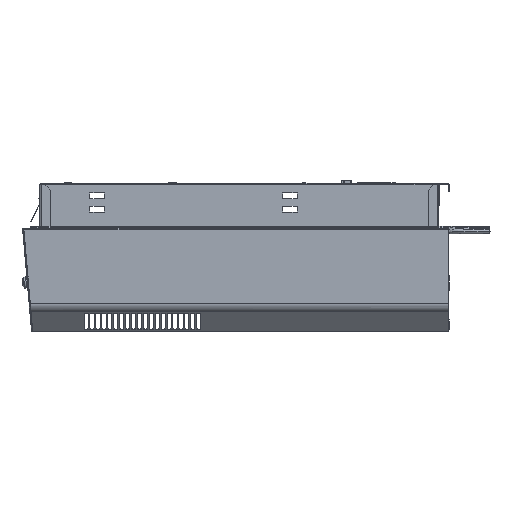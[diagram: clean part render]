
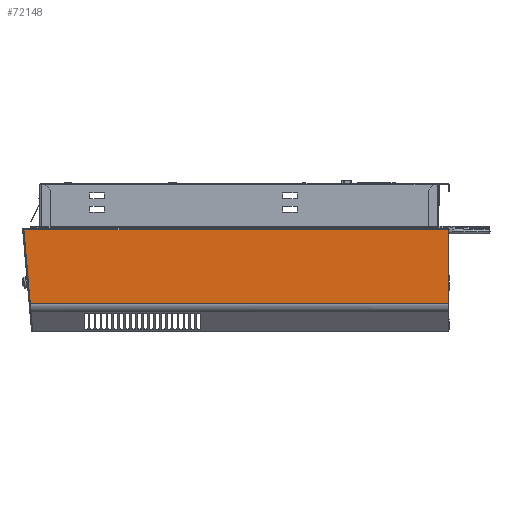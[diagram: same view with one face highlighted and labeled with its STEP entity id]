
A CAD part, left-side view. The second image highlights one B-rep face of the part: STEP entity #72148.
In plain terms, the highlighted planar face has unit normal (-1, 0, 0).
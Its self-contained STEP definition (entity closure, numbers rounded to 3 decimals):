
#1767 = CARTESIAN_POINT ( 'NONE',  ( -190., 1294.078, -171.919 ) ) ;
#1768 = DIRECTION ( 'NONE',  ( 0., -1., 0. ) ) ;
#1794 = CARTESIAN_POINT ( 'NONE',  ( -190., 1294.078, -67.055 ) ) ;
#1795 = DIRECTION ( 'NONE',  ( 0., 1., 0. ) ) ;
#1799 = CARTESIAN_POINT ( 'NONE',  ( -190., -299.922, -65.055 ) ) ;
#1800 = DIRECTION ( 'NONE',  ( 0., 0., -1. ) ) ;
#1801 = CARTESIAN_POINT ( 'NONE',  ( -190., 310.156, -54.943 ) ) ;
#1802 = DIRECTION ( 'NONE',  ( 0., -0.087, -0.996 ) ) ;
#6793 = VECTOR ( 'NONE', #1768, 1000. ) ;
#6808 = VECTOR ( 'NONE', #1795, 1000. ) ;
#6810 = VECTOR ( 'NONE', #1800, 1000. ) ;
#6811 = VECTOR ( 'NONE', #1802, 1000. ) ;
#11761 = LINE ( 'NONE', #1767, #6793 ) ;
#11796 = LINE ( 'NONE', #1794, #6808 ) ;
#11799 = LINE ( 'NONE', #1799, #6810 ) ;
#11801 = LINE ( 'NONE', #1801, #6811 ) ;
#29674 = EDGE_LOOP ( 'NONE', ( #72960, #72961, #72959, #72963 ) ) ;
#36711 = CARTESIAN_POINT ( 'NONE',  ( -190., 299.921, -171.919 ) ) ;
#36715 = CARTESIAN_POINT ( 'NONE',  ( -190., -299.922, -171.919 ) ) ;
#36730 = CARTESIAN_POINT ( 'NONE',  ( -190., -299.922, -67.055 ) ) ;
#36732 = CARTESIAN_POINT ( 'NONE',  ( -190., 309.096, -67.055 ) ) ;
#43890 = VERTEX_POINT ( 'NONE', #36711 ) ;
#43892 = VERTEX_POINT ( 'NONE', #36715 ) ;
#43901 = VERTEX_POINT ( 'NONE', #36730 ) ;
#43902 = VERTEX_POINT ( 'NONE', #36732 ) ;
#58313 = FACE_OUTER_BOUND ( 'NONE', #29674, .T. ) ;
#67852 = EDGE_CURVE ( 'NONE', #43890, #43892, #11761, .T. ) ;
#67865 = EDGE_CURVE ( 'NONE', #43901, #43902, #11796, .T. ) ;
#67867 = EDGE_CURVE ( 'NONE', #43901, #43892, #11799, .T. ) ;
#67868 = EDGE_CURVE ( 'NONE', #43902, #43890, #11801, .T. ) ;
#69586 = PLANE ( 'NONE',  #90495 ) ;
#69587 = CARTESIAN_POINT ( 'NONE',  ( -190., 1294.078, -65.055 ) ) ;
#69588 = DIRECTION ( 'NONE',  ( 1., 0., 0. ) ) ;
#69589 = DIRECTION ( 'NONE',  ( 0., 0., -1. ) ) ;
#72148 = ADVANCED_FACE ( 'NONE', ( #58313 ), #69586, .F. ) ;
#72959 = ORIENTED_EDGE ( 'NONE', *, *, #67868, .T. ) ;
#72960 = ORIENTED_EDGE ( 'NONE', *, *, #67867, .F. ) ;
#72961 = ORIENTED_EDGE ( 'NONE', *, *, #67865, .T. ) ;
#72963 = ORIENTED_EDGE ( 'NONE', *, *, #67852, .T. ) ;
#90495 = AXIS2_PLACEMENT_3D ( 'NONE', #69587, #69588, #69589 ) ;
